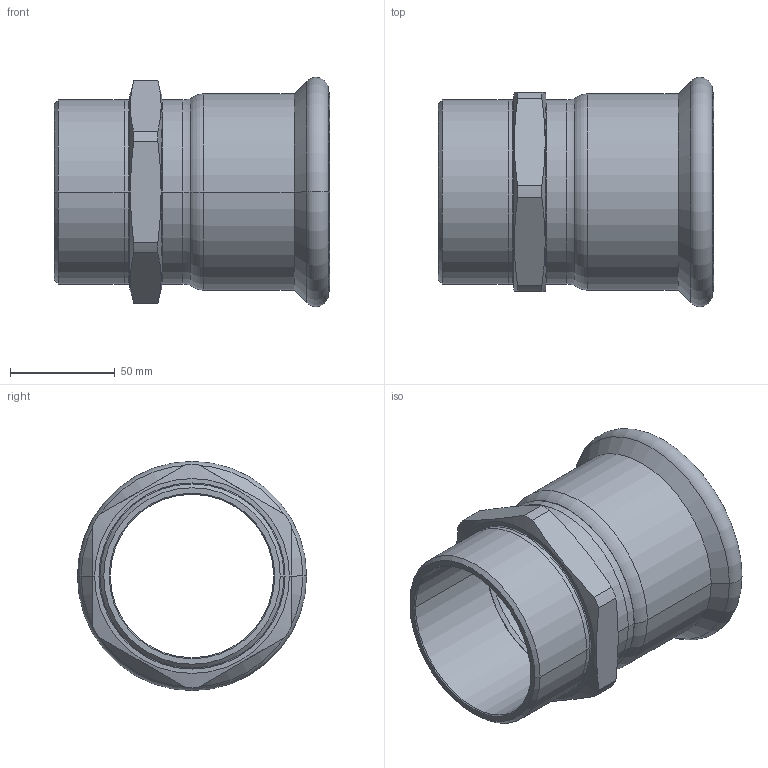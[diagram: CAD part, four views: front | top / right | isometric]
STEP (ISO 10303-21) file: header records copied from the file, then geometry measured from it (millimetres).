
FILE_DESCRIPTION(('CoCreate Modeling STEP Export'),'2;1');
FILE_NAME('C1405 88.9xR3.stp','2014-11-07T14:24:56',(''),(''),'CoCreate Modeling STEP processor for AP214 (Solid Model)','CoCreate Modeling 17.00A 17-Jun-2010 (C) Parametric Technology GmbH','');
FILE_SCHEMA(('AUTOMOTIVE_DESIGN { 1 0 10303 214 1 1 1 1 }'));
Length unit declared in the file: millimetre
Products named in the file (2): C1405_88.9xRp3
Assembly tree (1 placements, depth 2):
  C1405_88.9xRp3
    C1405_88.9xRp3
Bounding box: 131.38 x 109.47 x 109.47 mm (x, y, z)
Volume: 165348.2 mm3; surface area: 81402.7 mm2
Topology: 1 solids, 1 shells, 78 faces, 174 edges, 100 vertices
Faces by surface type: cone 26, cylinder 24, torus 18, plane 10
Entity records: 2723 total; most frequent: CARTESIAN_POINT 1192, ORIENTED_EDGE 348, DIRECTION 260, EDGE_CURVE 174, AXIS2_PLACEMENT_3D 102, VERTEX_POINT 100, EDGE_LOOP 82, FACE_OUTER_BOUND 78
